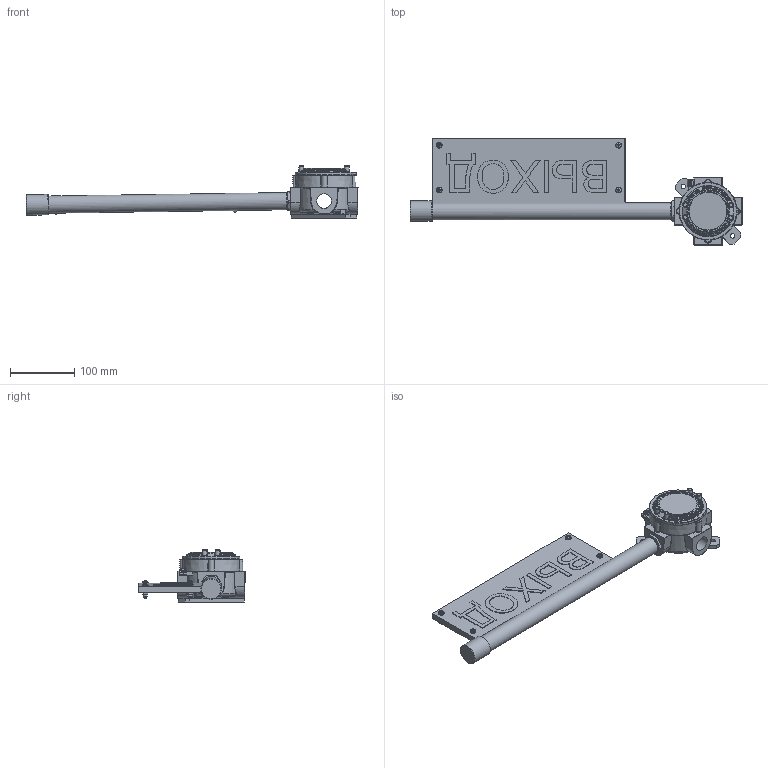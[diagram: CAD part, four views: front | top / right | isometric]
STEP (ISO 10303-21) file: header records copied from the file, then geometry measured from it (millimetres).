
FILE_DESCRIPTION((''),'2;1');
FILE_NAME('\\192.168.5.25\cortem_klient\INVENTOR БАЗА МОДЕЛЕЙ\Актуальная база моделей для отдела продаж\ПГС-ИТ\ПГС-ИТ11.stp','2020-04-27T11:41:36',('K.S.Bezzubikov'),(''),'Autodesk Inventor 2012','Autodesk Inventor 2012','');
FILE_SCHEMA(('AUTOMOTIVE_DESIGN { 1 0 10303 214 1 1 1 1 }'));
Length unit declared in the file: millimetre
Products named in the file (1): i5090.10.19.01_Внешний контур_1
Bounding box: 518.36 x 165.99 x 81.5 mm (x, y, z)
Volume: 667192.5 mm3; surface area: 218829.5 mm2
Topology: 1 solids, 11 shells, 2078 faces, 5322 edges, 3378 vertices
Faces by surface type: plane 821, bspline 699, cone 254, cylinder 150, torus 108, sphere 46
Full cylindrical faces by diameter (mm): 3.2 x1, 3.65 x4, 4.1 x3, 4.3 x8, 4.9 x2, 5 x10, 6 x3, 6.9 x1, 7 x8, 9 x8, 12 x2, 20.9 x1, 23.4 x4, 23.8 x1, 25 x2, 26.9 x1, 28 x1, 32 x1, 77 x1, 77.8 x2, 82.5 x1
Entity records: 82452 total; most frequent: CARTESIAN_POINT 38894, ORIENTED_EDGE 10166, DIRECTION 6461, EDGE_CURVE 5083, VERTEX_POINT 3304, EDGE_LOOP 2413, AXIS2_PLACEMENT_3D 2379, FACE_OUTER_BOUND 2078
